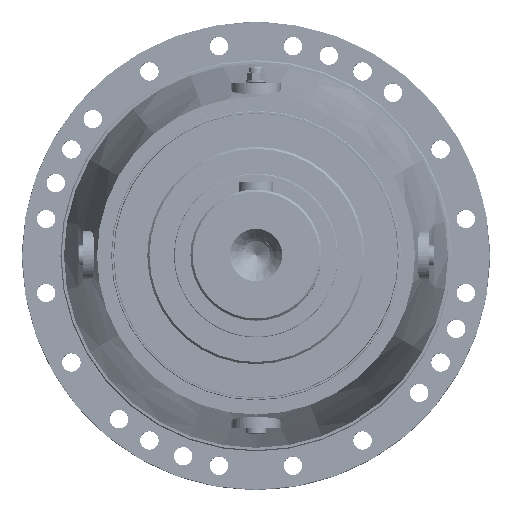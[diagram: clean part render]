
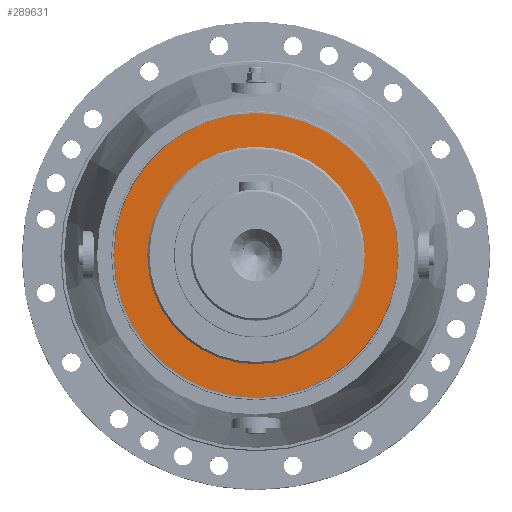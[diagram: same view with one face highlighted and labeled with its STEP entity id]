
A CAD part, top view. The second image highlights one B-rep face of the part: STEP entity #289631.
In plain terms, the highlighted planar face has unit normal (0, 0, 1).
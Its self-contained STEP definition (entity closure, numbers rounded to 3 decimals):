
#28055 = EDGE_CURVE ( 'NONE', #255545, #255610, #230171, .T. ) ;
#28148 = EDGE_CURVE ( 'NONE', #255610, #255545, #230200, .T. ) ;
#28315 = EDGE_CURVE ( 'NONE', #255549, #255500, #230872, .T. ) ;
#28429 = EDGE_CURVE ( 'NONE', #255500, #255549, #135471, .T. ) ;
#83250 = EDGE_LOOP ( 'NONE', ( #154948, #154987 ) ) ;
#83293 = EDGE_LOOP ( 'NONE', ( #154969, #154929 ) ) ;
#84519 = AXIS2_PLACEMENT_3D ( 'NONE', #98976, #98981, #98979 ) ;
#84523 = AXIS2_PLACEMENT_3D ( 'NONE', #99082, #99084, #99086 ) ;
#84589 = AXIS2_PLACEMENT_3D ( 'NONE', #103651, #103644, #103633 ) ;
#84597 = AXIS2_PLACEMENT_3D ( 'NONE', #103473, #103467, #103450 ) ;
#98976 = CARTESIAN_POINT ( 'NONE',  ( 0., 0., 203. ) ) ;
#98979 = DIRECTION ( 'NONE',  ( 0., 1., 0. ) ) ;
#98981 = DIRECTION ( 'NONE',  ( 0., 0., -1. ) ) ;
#99082 = CARTESIAN_POINT ( 'NONE',  ( 0., 0., 203. ) ) ;
#99084 = DIRECTION ( 'NONE',  ( 0., 0., -1. ) ) ;
#99086 = DIRECTION ( 'NONE',  ( 0., 1., 0. ) ) ;
#103450 = DIRECTION ( 'NONE',  ( 0., 1., 0. ) ) ;
#103467 = DIRECTION ( 'NONE',  ( 0., 0., 1. ) ) ;
#103473 = CARTESIAN_POINT ( 'NONE',  ( 0., 0., 203. ) ) ;
#103633 = DIRECTION ( 'NONE',  ( 0., 1., 0. ) ) ;
#103644 = DIRECTION ( 'NONE',  ( 0., 0., 1. ) ) ;
#103651 = CARTESIAN_POINT ( 'NONE',  ( 0., 0., 203. ) ) ;
#126290 = FACE_BOUND ( 'NONE', #83250, .T. ) ;
#126295 = FACE_OUTER_BOUND ( 'NONE', #83293, .T. ) ;
#130357 = AXIS2_PLACEMENT_3D ( 'NONE', #179255, #179272, #179263 ) ;
#135471 = CIRCLE ( 'NONE', #84589, 99.5 ) ;
#154929 = ORIENTED_EDGE ( 'NONE', *, *, #28148, .F. ) ;
#154948 = ORIENTED_EDGE ( 'NONE', *, *, #28315, .F. ) ;
#154969 = ORIENTED_EDGE ( 'NONE', *, *, #28055, .F. ) ;
#154987 = ORIENTED_EDGE ( 'NONE', *, *, #28429, .F. ) ;
#179247 = PLANE ( 'NONE',  #130357 ) ;
#179255 = CARTESIAN_POINT ( 'NONE',  ( 0., 130., 203. ) ) ;
#179263 = DIRECTION ( 'NONE',  ( 0., 1., 0. ) ) ;
#179272 = DIRECTION ( 'NONE',  ( 0., 0., -1. ) ) ;
#203845 = CARTESIAN_POINT ( 'NONE',  ( 0., -130., 203. ) ) ;
#207848 = CARTESIAN_POINT ( 'NONE',  ( 0., 130., 203. ) ) ;
#207860 = CARTESIAN_POINT ( 'NONE',  ( 0., 99.5, 203. ) ) ;
#207964 = CARTESIAN_POINT ( 'NONE',  ( 0., -99.5, 203. ) ) ;
#230171 = CIRCLE ( 'NONE', #84519, 130. ) ;
#230200 = CIRCLE ( 'NONE', #84523, 130. ) ;
#230872 = CIRCLE ( 'NONE', #84597, 99.5 ) ;
#255500 = VERTEX_POINT ( 'NONE', #207964 ) ;
#255545 = VERTEX_POINT ( 'NONE', #207848 ) ;
#255549 = VERTEX_POINT ( 'NONE', #207860 ) ;
#255610 = VERTEX_POINT ( 'NONE', #203845 ) ;
#289631 = ADVANCED_FACE ( 'NONE', ( #126290, #126295 ), #179247, .F. ) ;
